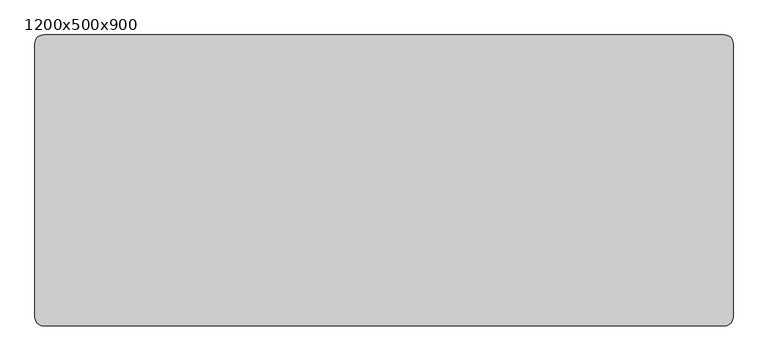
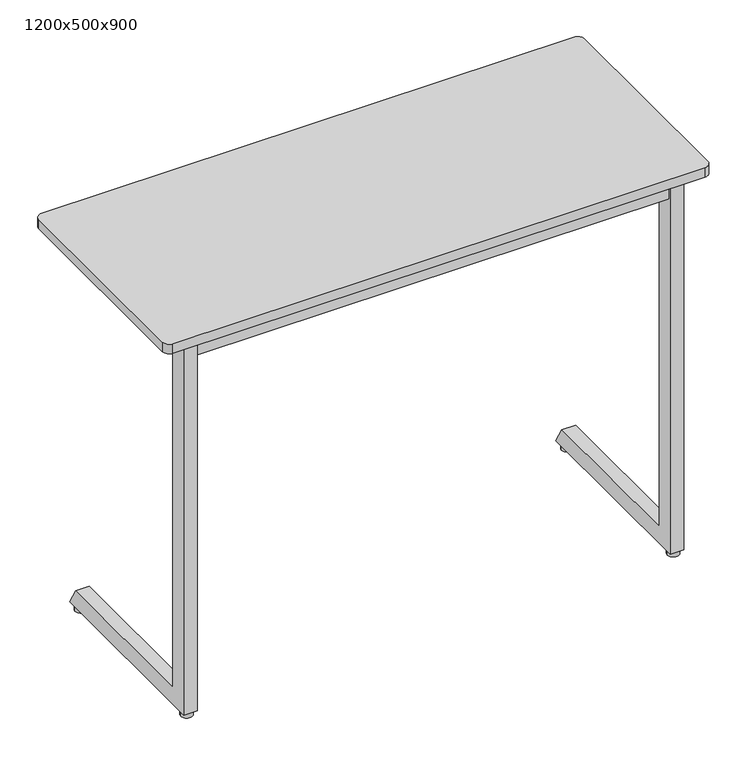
"""IFC4 building model written with IfcOpenShell, lengths in millimetres: furniture geometry, Trivia Light : 1200x500x900."""

import ifcopenshell
import ifcopenshell.guid

model = None  # the IFC model being written
_history = None  # IfcOwnerHistory: only IFC2X3 demands one
_inside = {}  # id of a spatial element -> (the spatial element, [elements in it])
_under = {}  # id of a project, library or spatial element -> (it, [spatial elements below it])
_declared = {}  # id of a project -> (the project, [libraries it declares])
_typed = {}  # id of a type object -> (the type object, [elements of that type])
_made_of = {}  # id of a material, layer set ... -> (it, [elements and type objects made of it])


def new_model(schema):
    """Start an empty IFC model of exactly this schema.

    Asked for "IFC4X3", IfcOpenShell would pick the latest addendum, in which some entities
    have other attributes; the version numbers below select the first issue.
    IFC2X3 requires an IfcOwnerHistory on every rooted entity: one is made here for all.
    """
    global model, _history
    if schema == "IFC4X3":
        model = ifcopenshell.file(schema_version=(4, 3, 0, 0))
    else:
        model = ifcopenshell.file(schema=schema)
    _inside.clear()
    _under.clear()
    _declared.clear()
    _typed.clear()
    _made_of.clear()
    _history = None
    if model.schema == "IFC2X3":
        org = make("IfcOrganization", Name="unknown")
        user = make(
            "IfcPersonAndOrganization",
            ThePerson=make("IfcPerson", FamilyName="unknown"),
            TheOrganization=org,
        )
        app = make(
            "IfcApplication",
            ApplicationDeveloper=org,
            Version="unknown",
            ApplicationFullName="unknown",
            ApplicationIdentifier="unknown",
        )
        _history = make(
            "IfcOwnerHistory",
            OwningUser=user,
            OwningApplication=app,
            ChangeAction="ADDED",
            CreationDate=0,
        )
    return model


def make(cls, **values):
    """One entity of the class cls with the attributes given. An attribute that is None is left unset."""
    return model.create_entity(
        cls, **{name: value for name, value in values.items() if value is not None}
    )


def rooted(cls, **values):
    """An entity with a GlobalId (a new one), such as an element, a storey or a relation."""
    return make(cls, GlobalId=ifcopenshell.guid.new(), OwnerHistory=_history, **values)


def si_unit(unit_type, name, prefix=None):
    """IfcSIUnit, for example si_unit("LENGTHUNIT", "METRE", prefix="MILLI")."""
    return make("IfcSIUnit", UnitType=unit_type, Prefix=prefix, Name=name)


def assignment(units):
    """IfcUnitAssignment: the units of a project."""
    return None if units is None else make("IfcUnitAssignment", Units=units)


def point(xyz):
    """IfcCartesianPoint."""
    return None if xyz is None else make("IfcCartesianPoint", Coordinates=xyz)


def direction(xyz):
    """IfcDirection."""
    return None if xyz is None else make("IfcDirection", DirectionRatios=xyz)


def frame(location, z_axis=None, x_axis=None):
    """IfcAxis2Placement3D, a coordinate frame: its origin and axes. An axis left out is left unset."""
    return make(
        "IfcAxis2Placement3D",
        Location=point(location),
        Axis=direction(z_axis),
        RefDirection=direction(x_axis),
    )


def frame_2d(location, x_axis=None):
    """IfcAxis2Placement2D, a coordinate frame in the plane: its origin and x axis."""
    return make(
        "IfcAxis2Placement2D", Location=point(location), RefDirection=direction(x_axis)
    )


def origin():
    """The frame at (0, 0, 0) with its axes left unset."""
    return frame((0.0, 0.0, 0.0))


def origin_with_axes():
    """The frame at (0, 0, 0) with the z axis (0, 0, 1) and the x axis (1, 0, 0) written out."""
    return frame((0.0, 0.0, 0.0), z_axis=(0.0, 0.0, 1.0), x_axis=(1.0, 0.0, 0.0))


def place(relative_to, where):
    """IfcLocalPlacement: puts the frame where relative to a parent placement (None: the world)."""
    return make(
        "IfcLocalPlacement", PlacementRelTo=relative_to, RelativePlacement=where
    )


def context(
    kind, dimensions, precision=None, world=None, true_north=None, identifier=None
):
    """IfcGeometricRepresentationContext, for example the 3D "Model" context."""
    return make(
        "IfcGeometricRepresentationContext",
        ContextIdentifier=identifier,
        ContextType=kind,
        CoordinateSpaceDimension=dimensions,
        Precision=precision,
        WorldCoordinateSystem=world,
        TrueNorth=true_north,
    )


def project(units=None, contexts=None):
    """IfcProject with its units and contexts."""
    return rooted(
        "IfcProject",
        Name="project",
        RepresentationContexts=contexts,
        UnitsInContext=assignment(units),
    )


def spatial(cls, under=None, at=None, **own):
    """A site, building, storey or space (cls), placed at a placement, below another one or the project."""
    s = rooted(cls, ObjectPlacement=at, **own)
    if under is not None:
        _under.setdefault(under.id(), (under, []))[1].append(s)
    return s


def polyline(points):
    """IfcPolyline through the points."""
    return make("IfcPolyline", Points=[point(p) for p in points])


def circle_curve(where, radius):
    """IfcCircle in the frame where."""
    return make("IfcCircle", Position=where, Radius=radius)


def trimmed(basis, trim1, trim2, sense, master):
    """IfcTrimmedCurve: the piece of a basis curve between two trims."""
    return make(
        "IfcTrimmedCurve",
        BasisCurve=basis,
        Trim1=trim1,
        Trim2=trim2,
        SenseAgreement=sense,
        MasterRepresentation=master,
    )


def segment(curve, same_sense, transition):
    """IfcCompositeCurveSegment."""
    return make(
        "IfcCompositeCurveSegment",
        Transition=transition,
        SameSense=same_sense,
        ParentCurve=curve,
    )


def composite_curve(segments, self_intersect=None):
    """IfcCompositeCurve: segments joined end to end."""
    return make("IfcCompositeCurve", Segments=segments, SelfIntersect=self_intersect)


def outline(outer, holes=None, kind="AREA"):
    """IfcArbitraryClosedProfileDef: a profile drawn as a closed curve; with holes, ...WithVoids."""
    if holes is None:
        return make("IfcArbitraryClosedProfileDef", ProfileType=kind, OuterCurve=outer)
    return make(
        "IfcArbitraryProfileDefWithVoids",
        ProfileType=kind,
        OuterCurve=outer,
        InnerCurves=holes,
    )


def extrude(swept, where, along, depth):
    """IfcExtrudedAreaSolid: the profile swept, set in the frame where, extruded along a direction by depth."""
    return make(
        "IfcExtrudedAreaSolid",
        SweptArea=swept,
        Position=where,
        ExtrudedDirection=direction(along),
        Depth=depth,
    )


def shape(context_of_items, identifier, shape_type, items):
    """IfcShapeRepresentation: the items that make up one representation, for example the "Body"."""
    return make(
        "IfcShapeRepresentation",
        ContextOfItems=context_of_items,
        RepresentationIdentifier=identifier,
        RepresentationType=shape_type,
        Items=items,
    )


def source(mapping_origin, context_of_items, identifier, shape_type, items):
    """IfcRepresentationMap: a shape defined once, which mapped items show again and again."""
    return make(
        "IfcRepresentationMap",
        MappingOrigin=mapping_origin,
        MappedRepresentation=shape(context_of_items, identifier, shape_type, items),
    )


def transform(
    local_origin,
    x_axis=None,
    y_axis=None,
    z_axis=None,
    scale=None,
    scale2=None,
    scale3=None,
    uniform=True,
):
    """IfcCartesianTransformationOperator3D, or its non-uniform kind. x_axis, y_axis, z_axis: its Axis1, 2, 3."""
    if uniform:
        return make(
            "IfcCartesianTransformationOperator3D",
            Axis1=direction(x_axis),
            Axis2=direction(y_axis),
            LocalOrigin=point(local_origin),
            Scale=scale,
            Axis3=direction(z_axis),
        )
    return make(
        "IfcCartesianTransformationOperator3DnonUniform",
        Axis1=direction(x_axis),
        Axis2=direction(y_axis),
        LocalOrigin=point(local_origin),
        Scale=scale,
        Axis3=direction(z_axis),
        Scale2=scale2,
        Scale3=scale3,
    )


def mapped(mapping_source, mapping_target):
    """IfcMappedItem: shows the shape of a source again, moved by a transform."""
    return make(
        "IfcMappedItem", MappingSource=mapping_source, MappingTarget=mapping_target
    )


def made_of(thing, what):
    """Note that an element or type object is made of a material, layer set ...; save() writes the relation."""
    if what is not None:
        _made_of.setdefault(what.id(), (what, []))[1].append(thing)
    return thing


def element(
    cls,
    number,
    at=None,
    inside=None,
    cuts=None,
    type_object=None,
    material=None,
    context=None,
    identifier="Body",
    shape_type=None,
    held_by="IfcProductDefinitionShape",
    body=None,
    shapes=None,
    **own,
):
    """One element of the class cls, such as IfcWall. Its Tag is "e" and its number.

    at: its placement. inside: the storey or other place that contains it. cuts: it is an
    opening in that element (IfcRelVoidsElement). A single representation is given by context,
    identifier, shape_type and body (its items); several are given by shapes. held_by: the class
    of the entity that holds the representations. save() writes the other relations.
    """
    e = rooted(cls, Tag="e%d" % number, ObjectPlacement=at, **own)
    if body is not None:
        shapes = [shape(context, identifier, shape_type, body)]
    if shapes is not None:
        e.Representation = make(held_by, Representations=shapes)
    if inside is not None:
        _inside.setdefault(inside.id(), (inside, []))[1].append(e)
    if cuts is not None:
        rooted(
            "IfcRelVoidsElement", RelatingBuildingElement=cuts, RelatedOpeningElement=e
        )
    if type_object is not None:
        _typed.setdefault(type_object.id(), (type_object, []))[1].append(e)
    return made_of(e, material)


def aggregate(whole, parts):
    """IfcRelAggregates: a whole, such as a stair, and the parts it consists of."""
    return rooted("IfcRelAggregates", RelatingObject=whole, RelatedObjects=parts)


def save(model, path):
    """Write the relations noted so far, then the file.

    IfcRelAggregates (storeys below a building ...), IfcRelContainedInSpatialStructure (elements
    in a storey), IfcRelDefinesByType, IfcRelAssociatesMaterial and IfcRelDeclares: one each for
    every whole, place, type object, material and project.
    """
    for whole, parts in _under.values():
        aggregate(whole, parts)
    for where, things in _inside.values():
        rooted(
            "IfcRelContainedInSpatialStructure",
            RelatedElements=things,
            RelatingStructure=where,
        )
    for kind, things in _typed.values():
        rooted("IfcRelDefinesByType", RelatedObjects=things, RelatingType=kind)
    for what, things in _made_of.values():
        rooted("IfcRelAssociatesMaterial", RelatedObjects=things, RelatingMaterial=what)
    for by, libraries in _declared.values():
        rooted("IfcRelDeclares", RelatingContext=by, RelatedDefinitions=libraries)
    model.write(path)


def furniture_1200x500x900_05afcf08(model_context):
    return source(origin(), model_context, "Body", "SweptSolid", [
        extrude(outline(polyline([(434.5100173, 878.0), (419.9996059, 846.4981092), (54.0, 846.4977978), (54.0, 878.0), (434.5100173, 878.0)])), frame((-464.7535601, 0.0, 0.0), z_axis=(1.0, 0.0, 0.0), x_axis=(0.0, 1.0, 0.0)), (0.0, 0.0, 1.0), 30.0),
        extrude(outline(polyline([(873.7997437, -467.7502136), (850.730957, -467.7502136), (850.730957, -499.8065042), (855.0394353, -511.6439509), (852.2203574, -512.6700113), (847.730957, -500.3354852), (847.730957, -464.7502136), (873.7997437, -464.7502136), (873.7997437, -467.7502136)])), frame((0.0, 215.0, 0.0), z_axis=(0.0, 1.0, 0.0), x_axis=(0.0, 0.0, 1.0)), (0.0, 0.0, 1.0), 30.0),
        extrude(outline(polyline([(873.7997437, 467.7535601), (873.7997437, 464.7535601), (847.730957, 464.7535601), (847.730957, 500.3388316), (852.2203574, 512.6733577), (855.0394353, 511.6472973), (850.730957, 499.8098507), (850.730957, 467.7535601), (873.7997437, 467.7535601)])), frame((0.0, 215.0, 0.0), z_axis=(0.0, 1.0, 0.0), x_axis=(0.0, 0.0, 1.0)), (0.0, 0.0, 1.0), 30.0),
        extrude(outline(composite_curve([segment(trimmed(circle_curve(frame_2d((-535.0, 35.0)), 13.0), [point((-548.0, 35.0))], [point((-522.0, 35.0))], False, "CARTESIAN"), True, "CONTINUOUS"), segment(trimmed(circle_curve(frame_2d((-535.0, 35.0)), 13.0), [point((-522.0, 35.0))], [point((-548.0, 35.0))], False, "CARTESIAN"), True, "CONTINUOUS")], self_intersect=False)), origin_with_axes(), (0.0, 0.0, 1.0), 13.0905762),
        extrude(outline(composite_curve([segment(trimmed(circle_curve(frame_2d((535.0, 35.0)), 13.0), [point((522.0, 35.0))], [point((548.0, 35.0))], False, "CARTESIAN"), True, "CONTINUOUS"), segment(trimmed(circle_curve(frame_2d((535.0, 35.0)), 13.0), [point((548.0, 35.0))], [point((522.0, 35.0))], False, "CARTESIAN"), True, "CONTINUOUS")], self_intersect=False)), origin_with_axes(), (0.0, 0.0, 1.0), 13.0905762),
        extrude(outline(composite_curve([segment(trimmed(circle_curve(frame_2d((535.0, 437.5)), 13.0), [point((522.0, 437.5))], [point((548.0, 437.5))], False, "CARTESIAN"), True, "CONTINUOUS"), segment(trimmed(circle_curve(frame_2d((535.0, 437.5)), 13.0), [point((548.0, 437.5))], [point((522.0, 437.5))], False, "CARTESIAN"), True, "CONTINUOUS")], self_intersect=False)), origin_with_axes(), (0.0, 0.0, 1.0), 13.0905762),
        extrude(outline(composite_curve([segment(trimmed(circle_curve(frame_2d((-535.0, 437.5)), 13.0), [point((-548.0, 437.5))], [point((-522.0, 437.5))], False, "CARTESIAN"), True, "CONTINUOUS"), segment(trimmed(circle_curve(frame_2d((-535.0, 437.5)), 13.0), [point((-522.0, 437.5))], [point((-548.0, 437.5))], False, "CARTESIAN"), True, "CONTINUOUS")], self_intersect=False)), origin_with_axes(), (0.0, 0.0, 1.0), 13.0905762),
        extrude(outline(polyline([(434.5100173, 878.0), (419.9996059, 846.4981092), (54.0, 846.4977978), (54.0, 878.0), (434.5100173, 878.0)])), frame((434.7535601, 0.0, 0.0), z_axis=(1.0, 0.0, 0.0), x_axis=(0.0, 1.0, 0.0)), (0.0, 0.0, 1.0), 30.0),
        extrude(outline(composite_curve([segment(trimmed(circle_curve(frame_2d((585.0, 485.0)), 15.0), [point((585.0, 500.0))], [point((600.0, 485.0))], False, "CARTESIAN"), True, "CONTINUOUS"), segment(polyline([(600.0, 485.0), (600.0, 15.0)]), True, "CONTINUOUS"), segment(trimmed(circle_curve(frame_2d((585.0, 15.0)), 15.0), [point((600.0, 15.0))], [point((585.0, 0.0))], False, "CARTESIAN"), True, "CONTINUOUS"), segment(polyline([(585.0, 0.0), (-585.0, 0.0)]), True, "CONTINUOUS"), segment(trimmed(circle_curve(frame_2d((-585.0, 15.0)), 15.0), [point((-585.0, 0.0))], [point((-600.0, 15.0))], False, "CARTESIAN"), True, "CONTINUOUS"), segment(polyline([(-600.0, 15.0), (-600.0, 485.0)]), True, "CONTINUOUS"), segment(trimmed(circle_curve(frame_2d((-585.0, 485.0)), 15.0), [point((-600.0, 485.0))], [point((-585.0, 500.0))], False, "CARTESIAN"), True, "CONTINUOUS"), segment(polyline([(-585.0, 500.0), (585.0, 500.0)]), True, "CONTINUOUS")], self_intersect=False)), frame((0.0, 0.0, 878.0), z_axis=(0.0, 0.0, 1.0), x_axis=(1.0, 0.0, 0.0)), (0.0, 0.0, 1.0), 22.0),
        extrude(outline(polyline([(519.7534307, 54.0), (519.7534307, 24.0), (-519.7534307, 24.0), (-519.7534307, 54.0), (519.7534307, 54.0)])), frame((0.0, 0.0, 836.0), z_axis=(0.0, 0.0, 1.0), x_axis=(1.0, 0.0, 0.0)), (0.0, 0.0, 1.0), 42.0),
        extrude(outline(polyline([(62.0, 51.5905762), (432.1448423, 51.5905762), (454.8944033, 11.5905762), (20.0, 11.5905762), (20.0, 878.0), (62.0, 878.0), (62.0, 51.5905762)])), frame((-549.7535601, 0.0, 0.0), z_axis=(1.0, 0.0, 0.0), x_axis=(0.0, 1.0, 0.0)), (0.0, 0.0, 1.0), 30.0001294),
        extrude(outline(polyline([(62.0, 51.5905762), (432.1448423, 51.5905762), (454.8944033, 11.5905762), (20.0, 11.5905762), (20.0, 878.0), (62.0, 878.0), (62.0, 51.5905762)])), frame((519.7534307, 0.0, 0.0), z_axis=(1.0, 0.0, 0.0), x_axis=(0.0, 1.0, 0.0)), (0.0, 0.0, 1.0), 30.0001294),
    ])


if __name__ == "__main__":
    model = new_model("IFC4")
    model_context = context("Model", 3, world=origin())
    ifc_project = project(units=[si_unit("LENGTHUNIT", "METRE", prefix="MILLI")], contexts=[model_context])
    site = spatial("IfcSite", under=ifc_project)
    building = spatial("IfcBuilding", under=site)
    placement = place(None, origin())
    furniture_1200x500x900_shape = furniture_1200x500x900_05afcf08(model_context)
    element("IfcFurniture", 1, ObjectType="Trivia Light : 1200x500x900", at=placement, inside=building, context=model_context, shape_type="MappedRepresentation", body=[
        mapped(furniture_1200x500x900_shape, transform((0.0, 0.0, 0.0), x_axis=(1.0, 0.0, 0.0), y_axis=(0.0, 1.0, 0.0), z_axis=(0.0, 0.0, 1.0))),
    ])
    save(model, "model.ifc")
